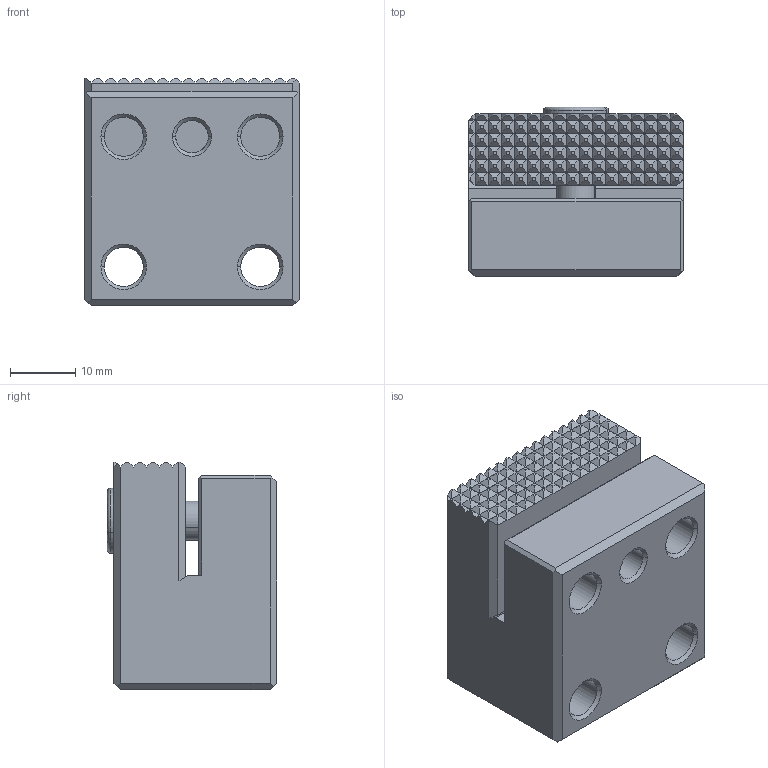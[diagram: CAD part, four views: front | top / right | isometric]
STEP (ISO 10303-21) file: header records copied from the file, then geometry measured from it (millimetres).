
FILE_DESCRIPTION((''),'2;1');
FILE_NAME('FFG_WH_WEDCL_0OSJ1NP001','2026-06-12T11:29:38',('Admin'),(''),'CREO PARAMETRIC BY PTC INC, 2025010','CREO PARAMETRIC BY PTC INC, 2025010','');
FILE_SCHEMA(('CONFIG_CONTROL_DESIGN'));
Length unit declared in the file: metre
Products named in the file (1): FFG_WH_WEDCL_0OSJ1NP001
Bounding box: 33 x 26 x 35 mm (x, y, z)
Volume: 23368 mm3; surface area: 9000.4 mm2
Topology: 1 solids, 3 shells, 590 faces, 1300 edges, 720 vertices
Faces by surface type: plane 534, cylinder 32, cone 20, torus 4
Entity records: 15501 total; most frequent: CARTESIAN_POINT 2643, DIRECTION 2608, ORIENTED_EDGE 2592, EDGE_CURVE 1300, VECTOR 1170, LINE 1170, VERTEX_POINT 720, AXIS2_PLACEMENT_3D 719
